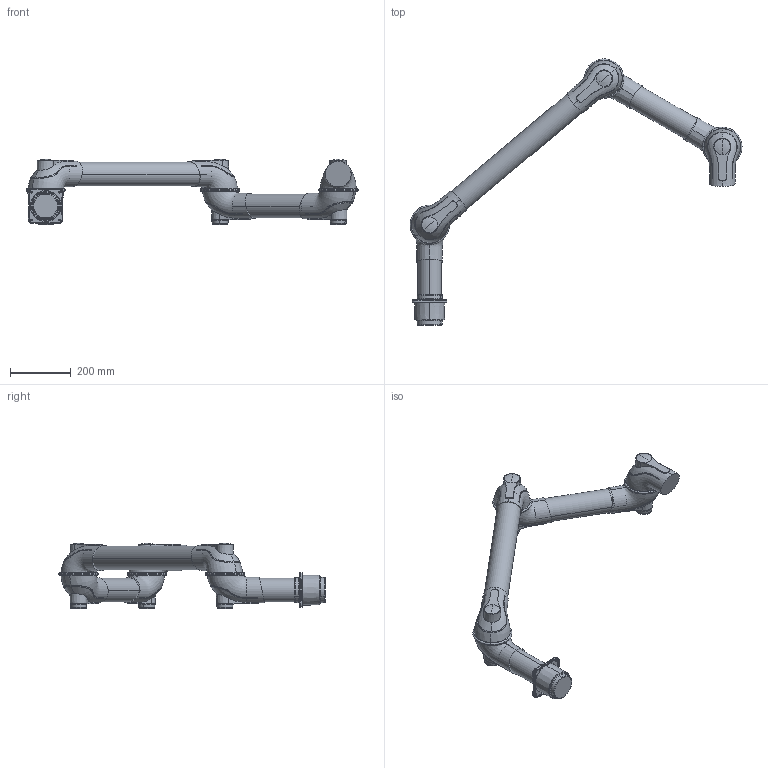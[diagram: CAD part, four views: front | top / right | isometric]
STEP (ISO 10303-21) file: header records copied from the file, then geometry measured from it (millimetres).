
FILE_DESCRIPTION((''),'2;1');
FILE_NAME('102351','2015-10-05T',('Tomas Bellgran'),(''),'PRO/ENGINEER BY PARAMETRIC TECHNOLOGY CORPORATION, 2013410','PRO/ENGINEER BY PARAMETRIC TECHNOLOGY CORPORATION, 2013410','');
FILE_SCHEMA(('AUTOMOTIVE_DESIGN { 1 0 10303 214 1 1 1 1 }'));
Length unit declared in the file: millimetre
Products named in the file (15): 100350; 100455; 102184; 105-5475-01; 102320; 102182; 102327; 102187; 102316; 105-5475-02; 9529063; 105-5481; 101156; 102312; 102351
Assembly tree (21 placements, depth 4):
  102351
    102320
      100350
      100455  x2
      102184
      105-5475-01
    102327
      105-5475-01  x2
      102182
    102316
      102187
      105-5475-01
    102312
      105-5475-02  x2
      9529063
      101156
        105-5481
    101156  x2
      105-5481
Bounding box: 1093.76 x 876.85 x 215.04 mm (x, y, z)
Volume: 12762007 mm3; surface area: 874889.9 mm2
Topology: 16 solids, 17 shells, 623 faces, 1580 edges, 993 vertices
Faces by surface type: bspline 240, plane 153, cone 141, torus 46, cylinder 22, sphere 21
Entity records: 43767 total; most frequent: CARTESIAN_POINT 27687, ORIENTED_EDGE 1792, DIRECTION 1206, PRESENTATION_STYLE_ASSIGNMENT 1147, STYLED_ITEM 1147, CURVE_STYLE 896, EDGE_CURVE 896, PROPERTY_DEFINITION 673
